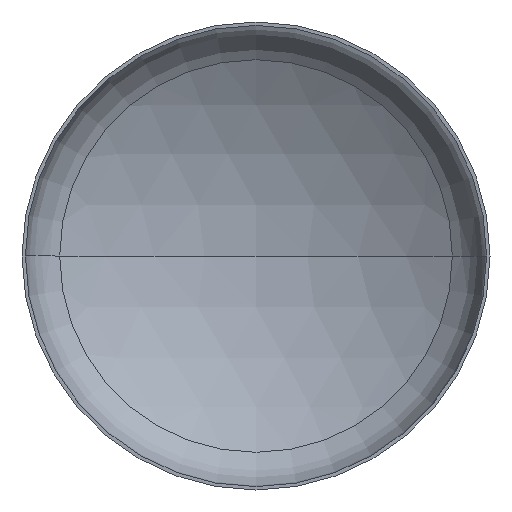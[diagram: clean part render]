
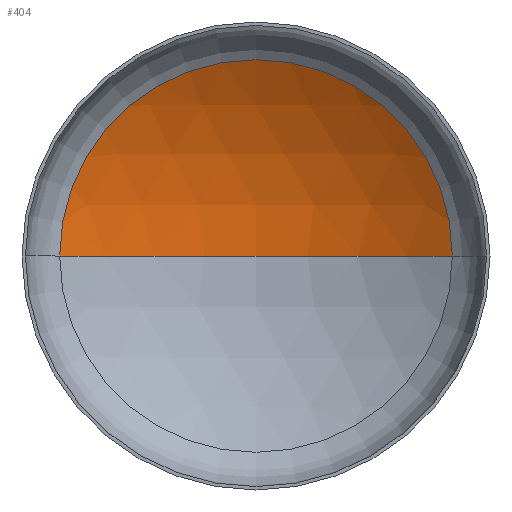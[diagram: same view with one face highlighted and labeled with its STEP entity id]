
A CAD part, front view. The second image highlights one B-rep face of the part: STEP entity #404.
In plain terms, the highlighted spherical face has radius 5200 mm.
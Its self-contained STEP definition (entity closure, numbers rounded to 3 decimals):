
#1 = VERTEX_POINT ( 'NONE', #262 ) ;
#11 = ORIENTED_EDGE ( 'NONE', *, *, #201, .T. ) ;
#32 = CIRCLE ( 'NONE', #89, 5200. ) ;
#56 = ORIENTED_EDGE ( 'NONE', *, *, #202, .F. ) ;
#87 = AXIS2_PLACEMENT_3D ( 'NONE', #251, #247, #259 ) ;
#89 = AXIS2_PLACEMENT_3D ( 'NONE', #341, #164, #180 ) ;
#93 = AXIS2_PLACEMENT_3D ( 'NONE', #228, #272, #370 ) ;
#110 = DIRECTION ( 'NONE',  ( -1., 0., 0. ) ) ;
#111 = EDGE_LOOP ( 'NONE', ( #56, #11, #397 ) ) ;
#123 = VERTEX_POINT ( 'NONE', #318 ) ;
#154 = VERTEX_POINT ( 'NONE', #215 ) ;
#164 = DIRECTION ( 'NONE',  ( 0., 0., -1. ) ) ;
#180 = DIRECTION ( 'NONE',  ( -1., 0., 0. ) ) ;
#195 = CIRCLE ( 'NONE', #93, 2726.286 ) ;
#198 = EDGE_CURVE ( 'NONE', #123, #1, #195, .T. ) ;
#201 = EDGE_CURVE ( 'NONE', #154, #123, #32, .T. ) ;
#202 = EDGE_CURVE ( 'NONE', #154, #1, #317, .T. ) ;
#215 = CARTESIAN_POINT ( 'NONE',  ( 0., 1773.522, 0. ) ) ;
#222 = FACE_OUTER_BOUND ( 'NONE', #111, .T. ) ;
#228 = CARTESIAN_POINT ( 'NONE',  ( 0., 1001.542, 0. ) ) ;
#247 = DIRECTION ( 'NONE',  ( 0., 0., 1. ) ) ;
#251 = CARTESIAN_POINT ( 'NONE',  ( 0., -3426.478, 0. ) ) ;
#259 = DIRECTION ( 'NONE',  ( 1., 0., 0. ) ) ;
#262 = CARTESIAN_POINT ( 'NONE',  ( -2726.286, 1001.542, 0. ) ) ;
#272 = DIRECTION ( 'NONE',  ( 0., -1., 0. ) ) ;
#281 = SPHERICAL_SURFACE ( 'NONE', #405, 5200. ) ;
#285 = CARTESIAN_POINT ( 'NONE',  ( 0., -3426.478, 0. ) ) ;
#309 = DIRECTION ( 'NONE',  ( 0., 0., -1. ) ) ;
#317 = CIRCLE ( 'NONE', #87, 5200. ) ;
#318 = CARTESIAN_POINT ( 'NONE',  ( 2726.286, 1001.542, 0. ) ) ;
#341 = CARTESIAN_POINT ( 'NONE',  ( 0., -3426.478, 0. ) ) ;
#370 = DIRECTION ( 'NONE',  ( 1., 0., 0. ) ) ;
#397 = ORIENTED_EDGE ( 'NONE', *, *, #198, .T. ) ;
#404 = ADVANCED_FACE ( 'NONE', ( #222 ), #281, .F. ) ;
#405 = AXIS2_PLACEMENT_3D ( 'NONE', #285, #309, #110 ) ;
